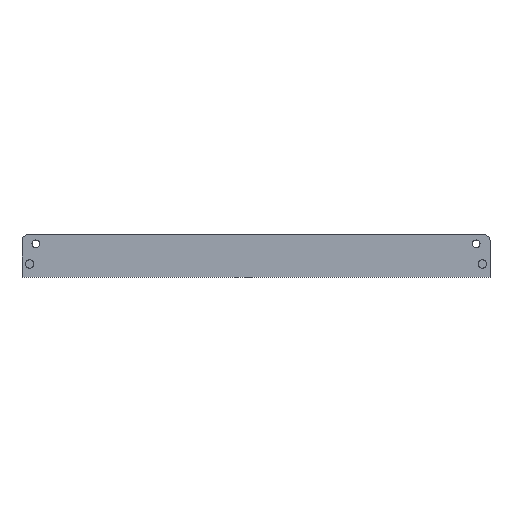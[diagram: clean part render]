
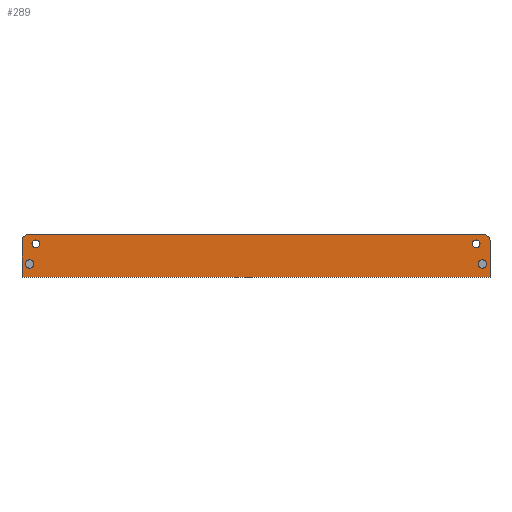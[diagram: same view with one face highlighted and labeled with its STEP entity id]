
A CAD part, top view. The second image highlights one B-rep face of the part: STEP entity #289.
In plain terms, the highlighted planar face has unit normal (0, 0, 1).
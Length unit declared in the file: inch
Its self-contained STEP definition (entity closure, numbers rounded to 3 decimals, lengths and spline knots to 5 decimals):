
#2=CARTESIAN_POINT('',(-9.,0.5,0.));
#3=DIRECTION('',(0.,0.,1.));
#4=DIRECTION('',(-1.,0.,0.));
#5=AXIS2_PLACEMENT_3D('',#2,#3,#4);
#7=CARTESIAN_POINT('',(-9.,0.5,0.));
#8=DIRECTION('',(0.,0.,1.));
#9=DIRECTION('',(1.,0.,0.));
#10=AXIS2_PLACEMENT_3D('',#7,#8,#9);
#12=CARTESIAN_POINT('',(9.,0.5,0.));
#13=DIRECTION('',(0.,0.,1.));
#14=DIRECTION('',(-1.,0.,0.));
#15=AXIS2_PLACEMENT_3D('',#12,#13,#14);
#17=CARTESIAN_POINT('',(9.,0.5,0.));
#18=DIRECTION('',(0.,0.,1.));
#19=DIRECTION('',(1.,0.,0.));
#20=AXIS2_PLACEMENT_3D('',#17,#18,#19);
#22=CARTESIAN_POINT('',(-9.25,-0.328,0.));
#23=DIRECTION('',(0.,0.,1.));
#24=DIRECTION('',(-1.,0.,0.));
#25=AXIS2_PLACEMENT_3D('',#22,#23,#24);
#27=CARTESIAN_POINT('',(-9.25,-0.328,0.));
#28=DIRECTION('',(0.,0.,1.));
#29=DIRECTION('',(1.,0.,0.));
#30=AXIS2_PLACEMENT_3D('',#27,#28,#29);
#32=CARTESIAN_POINT('',(9.25,-0.328,0.));
#33=DIRECTION('',(0.,0.,1.));
#34=DIRECTION('',(-1.,0.,0.));
#35=AXIS2_PLACEMENT_3D('',#32,#33,#34);
#37=CARTESIAN_POINT('',(9.25,-0.328,0.));
#38=DIRECTION('',(0.,0.,1.));
#39=DIRECTION('',(1.,0.,0.));
#40=AXIS2_PLACEMENT_3D('',#37,#38,#39);
#42=CARTESIAN_POINT('',(9.3125,0.625,0.));
#43=DIRECTION('',(0.,0.,1.));
#44=DIRECTION('',(1.,0.,0.));
#45=AXIS2_PLACEMENT_3D('',#42,#43,#44);
#47=DIRECTION('',(0.,1.,0.));
#48=VECTOR('',#47,1.5);
#49=CARTESIAN_POINT('',(9.5625,-0.875,0.));
#50=LINE('',#49,#48);
#51=DIRECTION('',(1.,0.,0.));
#52=VECTOR('',#51,19.125);
#53=CARTESIAN_POINT('',(-9.5625,-0.875,0.));
#54=LINE('',#53,#52);
#55=DIRECTION('',(0.,-1.,0.));
#56=VECTOR('',#55,1.5);
#57=CARTESIAN_POINT('',(-9.5625,0.625,0.));
#58=LINE('',#57,#56);
#59=CARTESIAN_POINT('',(-9.3125,0.625,0.));
#60=DIRECTION('',(0.,0.,1.));
#61=DIRECTION('',(0.,1.,0.));
#62=AXIS2_PLACEMENT_3D('',#59,#60,#61);
#64=DIRECTION('',(-1.,0.,0.));
#65=VECTOR('',#64,18.625);
#66=CARTESIAN_POINT('',(9.3125,0.875,0.));
#67=LINE('',#66,#65);
#190=CARTESIAN_POINT('',(-9.5625,-0.875,0.));
#191=CARTESIAN_POINT('',(9.5625,-0.875,0.));
#192=VERTEX_POINT('',#190);
#193=VERTEX_POINT('',#191);
#198=CARTESIAN_POINT('',(-9.156,0.5,0.));
#199=CARTESIAN_POINT('',(-8.844,0.5,0.));
#200=VERTEX_POINT('',#198);
#201=VERTEX_POINT('',#199);
#202=CARTESIAN_POINT('',(8.844,0.5,0.));
#203=CARTESIAN_POINT('',(9.156,0.5,0.));
#204=VERTEX_POINT('',#202);
#205=VERTEX_POINT('',#203);
#206=CARTESIAN_POINT('',(-9.375,-0.328,0.));
#207=CARTESIAN_POINT('',(-9.125,-0.328,0.));
#208=VERTEX_POINT('',#206);
#209=VERTEX_POINT('',#207);
#210=CARTESIAN_POINT('',(9.125,-0.328,0.));
#211=CARTESIAN_POINT('',(9.375,-0.328,0.));
#212=VERTEX_POINT('',#210);
#213=VERTEX_POINT('',#211);
#230=CARTESIAN_POINT('',(9.5625,0.625,0.));
#231=CARTESIAN_POINT('',(9.3125,0.875,0.));
#232=VERTEX_POINT('',#230);
#233=VERTEX_POINT('',#231);
#238=CARTESIAN_POINT('',(-9.3125,0.875,0.));
#239=CARTESIAN_POINT('',(-9.5625,0.625,0.));
#240=VERTEX_POINT('',#238);
#241=VERTEX_POINT('',#239);
#246=CARTESIAN_POINT('',(0.,0.,0.));
#247=DIRECTION('',(0.,0.,1.));
#248=DIRECTION('',(1.,0.,0.));
#249=AXIS2_PLACEMENT_3D('',#246,#247,#248);
#250=PLANE('',#249);
#252=ORIENTED_EDGE('',*,*,#251,.F.);
#254=ORIENTED_EDGE('',*,*,#253,.F.);
#256=ORIENTED_EDGE('',*,*,#255,.F.);
#258=ORIENTED_EDGE('',*,*,#257,.F.);
#260=ORIENTED_EDGE('',*,*,#259,.F.);
#262=ORIENTED_EDGE('',*,*,#261,.F.);
#263=EDGE_LOOP('',(#252,#254,#256,#258,#260,#262));
#264=FACE_OUTER_BOUND('',#263,.F.);
#266=ORIENTED_EDGE('',*,*,#265,.T.);
#268=ORIENTED_EDGE('',*,*,#267,.T.);
#269=EDGE_LOOP('',(#266,#268));
#270=FACE_BOUND('',#269,.F.);
#272=ORIENTED_EDGE('',*,*,#271,.T.);
#274=ORIENTED_EDGE('',*,*,#273,.T.);
#275=EDGE_LOOP('',(#272,#274));
#276=FACE_BOUND('',#275,.F.);
#278=ORIENTED_EDGE('',*,*,#277,.T.);
#280=ORIENTED_EDGE('',*,*,#279,.T.);
#281=EDGE_LOOP('',(#278,#280));
#282=FACE_BOUND('',#281,.F.);
#284=ORIENTED_EDGE('',*,*,#283,.T.);
#286=ORIENTED_EDGE('',*,*,#285,.T.);
#287=EDGE_LOOP('',(#284,#286));
#288=FACE_BOUND('',#287,.F.);
#289=ADVANCED_FACE('',(#264,#270,#276,#282,#288),#250,.T.);
#6=CIRCLE('',#5,0.156);
#11=CIRCLE('',#10,0.156);
#16=CIRCLE('',#15,0.156);
#21=CIRCLE('',#20,0.156);
#26=CIRCLE('',#25,0.125);
#31=CIRCLE('',#30,0.125);
#36=CIRCLE('',#35,0.125);
#41=CIRCLE('',#40,0.125);
#46=CIRCLE('',#45,0.25);
#63=CIRCLE('',#62,0.25);
#251=EDGE_CURVE('',#232,#233,#46,.T.);
#253=EDGE_CURVE('',#193,#232,#50,.T.);
#255=EDGE_CURVE('',#192,#193,#54,.T.);
#257=EDGE_CURVE('',#241,#192,#58,.T.);
#259=EDGE_CURVE('',#240,#241,#63,.T.);
#261=EDGE_CURVE('',#233,#240,#67,.T.);
#265=EDGE_CURVE('',#200,#201,#6,.T.);
#267=EDGE_CURVE('',#201,#200,#11,.T.);
#271=EDGE_CURVE('',#204,#205,#16,.T.);
#273=EDGE_CURVE('',#205,#204,#21,.T.);
#277=EDGE_CURVE('',#208,#209,#26,.T.);
#279=EDGE_CURVE('',#209,#208,#31,.T.);
#283=EDGE_CURVE('',#212,#213,#36,.T.);
#285=EDGE_CURVE('',#213,#212,#41,.T.);
